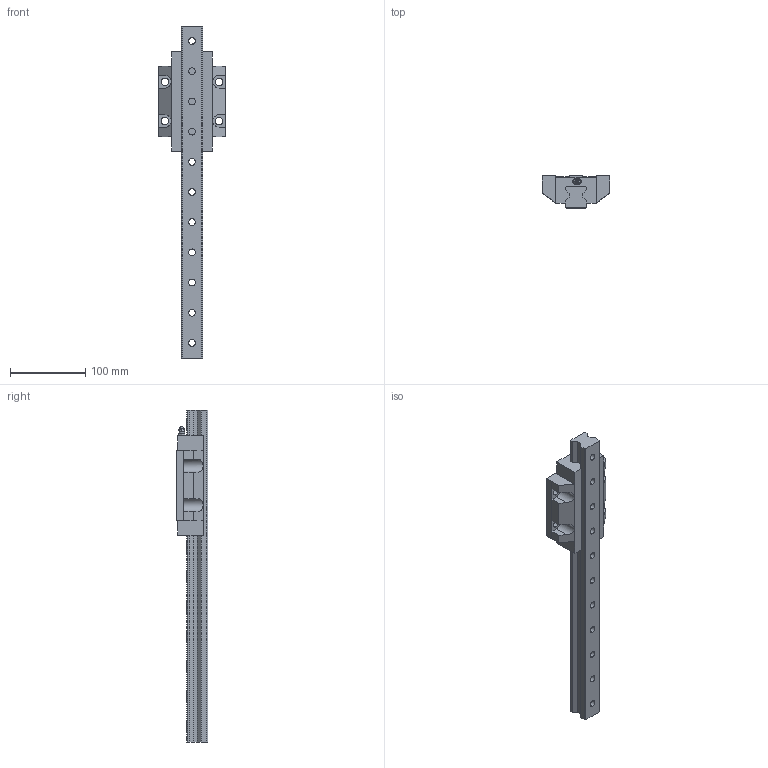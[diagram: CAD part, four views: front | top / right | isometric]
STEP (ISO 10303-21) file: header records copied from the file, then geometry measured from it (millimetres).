
FILE_DESCRIPTION(('STEP AP214'),'1');
FILE_NAME('D:/ModelConvertServices/Model.001/SVC.ACISConvertServices001/output/b11aecf3-cfa4-414e-8882-9e5ef0fc2687/1_RGW30HC1R440ZOH.step','2022-07-23T04:37:04',(' '),(' '),'Spatial InterOp 3D',' ',' ');
FILE_SCHEMA(('automotive_design'));
Length unit declared in the file: millimetre
Products named in the file (2): 1; 2
Bounding box: 90 x 42 x 440 mm (x, y, z)
Volume: 520153.3 mm3; surface area: 106665.7 mm2
Topology: 2 solids, 2 shells, 276 faces, 703 edges, 456 vertices
Faces by surface type: plane 144, cylinder 100, cone 30, sphere 2
Entity records: 10668 total; most frequent: CARTESIAN_POINT 1595, DIRECTION 1445, ORIENTED_EDGE 1402, EDGE_CURVE 701, AXIS2_PLACEMENT_3D 514, VERTEX_POINT 456, LINE 417, VECTOR 417
